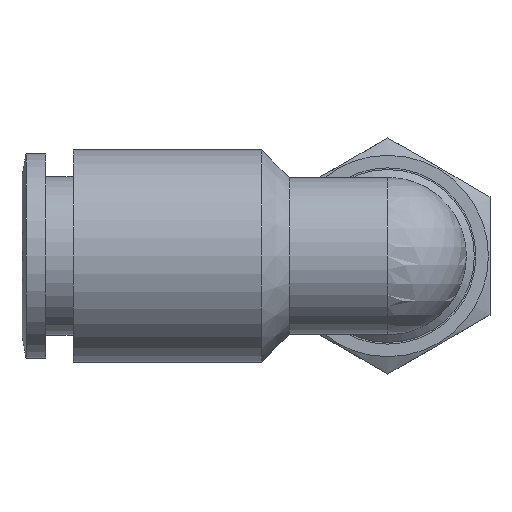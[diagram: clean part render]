
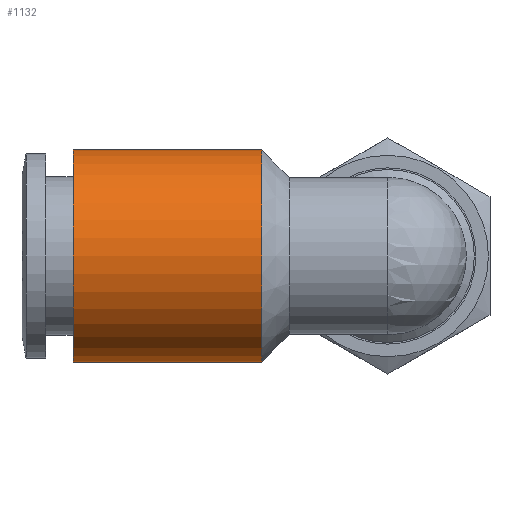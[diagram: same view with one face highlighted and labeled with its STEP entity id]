
A CAD part, left-side view. The second image highlights one B-rep face of the part: STEP entity #1132.
In plain terms, the highlighted cylindrical face has radius 6.75 mm (diameter 13.5 mm), a full revolution.
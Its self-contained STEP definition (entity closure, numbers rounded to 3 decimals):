
#1098=CARTESIAN_POINT('',(-6.75,8.,0.0));
#1099=VERTEX_POINT('',#1098);
#1100=CARTESIAN_POINT('',(0.0,8.,0.0));
#1101=DIRECTION('',(0.0,1.0,0.0));
#1102=DIRECTION('',(-1.0,0.0,0.0));
#1103=AXIS2_PLACEMENT_3D('',#1100,#1101,#1102);
#1104=CIRCLE('',#1103,6.75);
#1105=EDGE_CURVE('',#1099,#1099,#1104,.T.);
#1113=CARTESIAN_POINT('',(0.0,14.0,0.0));
#1114=DIRECTION('',(0.0,1.0,0.0));
#1115=DIRECTION('',(-1.0,0.0,0.0));
#1116=AXIS2_PLACEMENT_3D('',#1113,#1114,#1115);
#1117=CYLINDRICAL_SURFACE('',#1116,6.75);
#1118=CARTESIAN_POINT('',(-6.75,20.0,0.0));
#1119=VERTEX_POINT('',#1118);
#1120=CARTESIAN_POINT('',(0.0,20.0,0.0));
#1121=DIRECTION('',(0.0,1.0,0.0));
#1122=DIRECTION('',(-1.0,0.0,0.0));
#1123=AXIS2_PLACEMENT_3D('',#1120,#1121,#1122);
#1124=CIRCLE('',#1123,6.75);
#1125=EDGE_CURVE('',#1119,#1119,#1124,.T.);
#1126=ORIENTED_EDGE('',*,*,#1125,.F.);
#1127=EDGE_LOOP('',(#1126));
#1128=FACE_OUTER_BOUND('',#1127,.T.);
#1129=ORIENTED_EDGE('',*,*,#1105,.T.);
#1130=EDGE_LOOP('',(#1129));
#1131=FACE_BOUND('',#1130,.T.);
#1132=ADVANCED_FACE('',(#1128,#1131),#1117,.T.);
